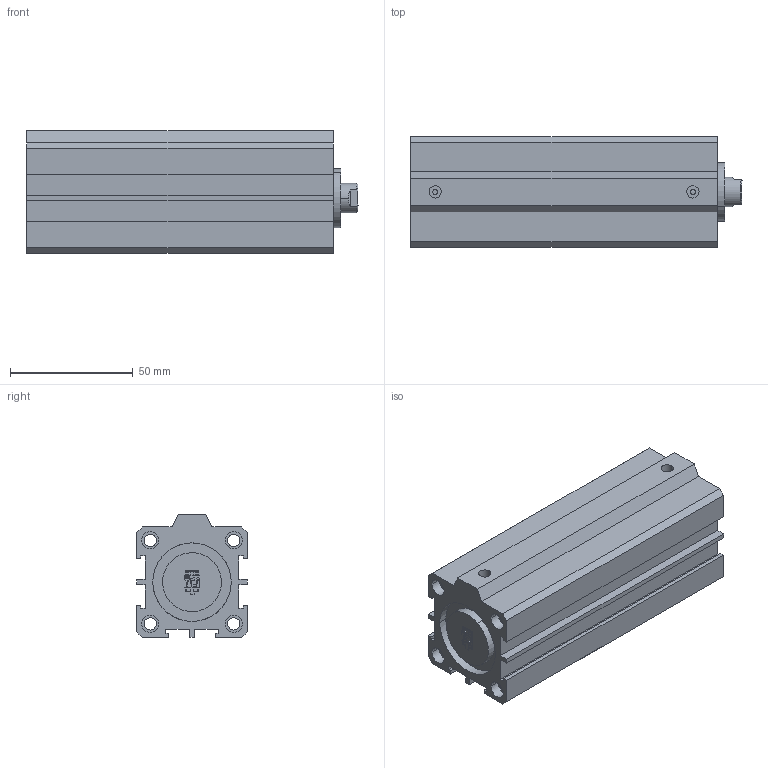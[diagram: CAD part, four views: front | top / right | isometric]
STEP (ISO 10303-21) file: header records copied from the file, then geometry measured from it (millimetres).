
FILE_DESCRIPTION(('CATIA V5 STEP Exchange'),'2;1');
FILE_NAME('D:\PDA\PDA-STP\PDA 32-12\PDA 32-12-90.stp','2016-02-02T10:42:58+00:00',('none'),('none'),'Version 5-6 Release 2012','CATIA V5 STEP AP203','none');
FILE_SCHEMA(('CONFIG_CONTROL_DESIGN'));
Length unit declared in the file: millimetre
Products named in the file (1): PDA 32-12-90-00
Assembly tree (2 placements, depth 2):
  PDA 32-12-90-00
    #58
    #6193
Bounding box: 135.25 x 45 x 50 mm (x, y, z)
Volume: 156196.3 mm3; surface area: 61890.1 mm2
Topology: 2 solids, 2 shells, 233 faces, 602 edges, 404 vertices
Faces by surface type: plane 163, cylinder 68, cone 2
Entity records: 6699 total; most frequent: CARTESIAN_POINT 1225, ORIENTED_EDGE 1204, DIRECTION 900, EDGE_CURVE 602, VECTOR 444, LINE 444, VERTEX_POINT 404, AXIS2_PLACEMENT_3D 301
